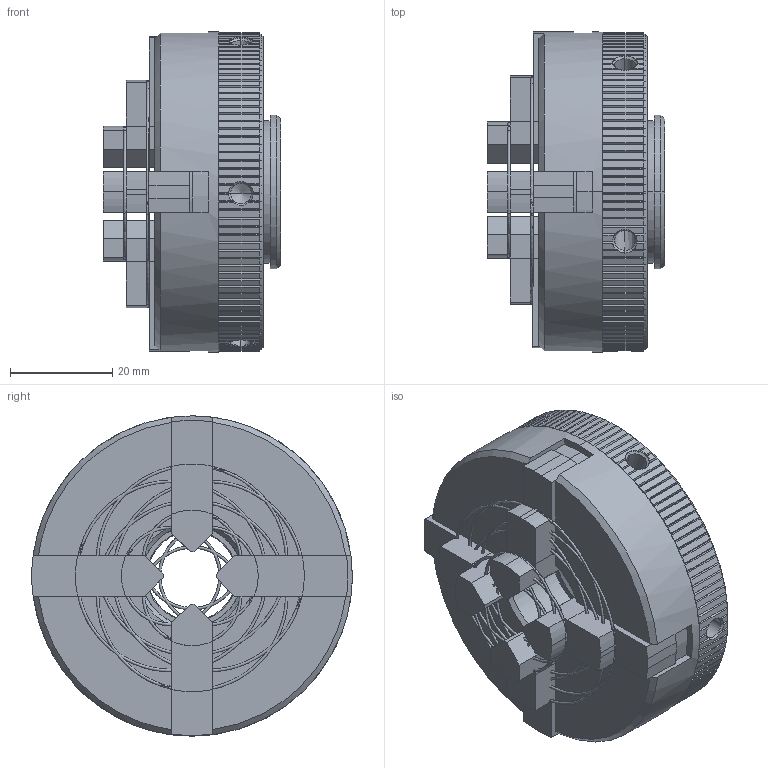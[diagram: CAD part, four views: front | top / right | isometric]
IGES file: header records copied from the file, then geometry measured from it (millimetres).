
Start section: Comment
Global section: file name: 1075.igs; native system:  By Spatial Corp.; preprocessor: XPlus PS/IGES 3.0; author: sherline; organization: Title; date: 20210512.172918; units: inch
Bounding box: 34.77 x 62.76 x 62.74 mm (x, y, z)
Volume: 61300.9 mm3; surface area: 33810.3 mm2
Topology: 6 solids, 6 shells, 851 faces, 2462 edges, 1599 vertices
Faces by surface type: plane 442, cylinder 267, cone 110, torus 32
